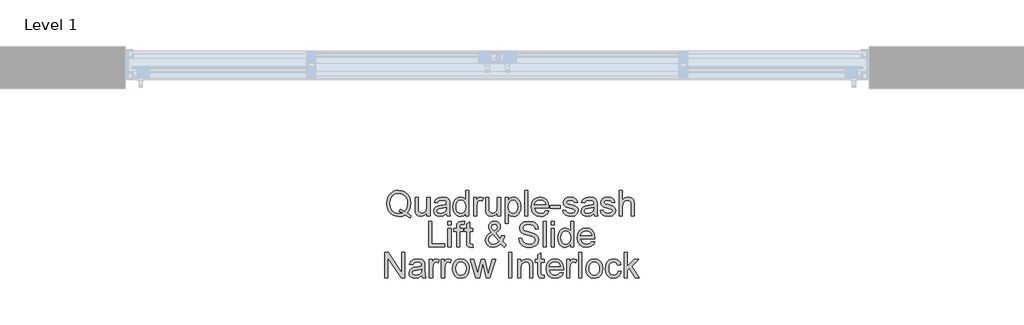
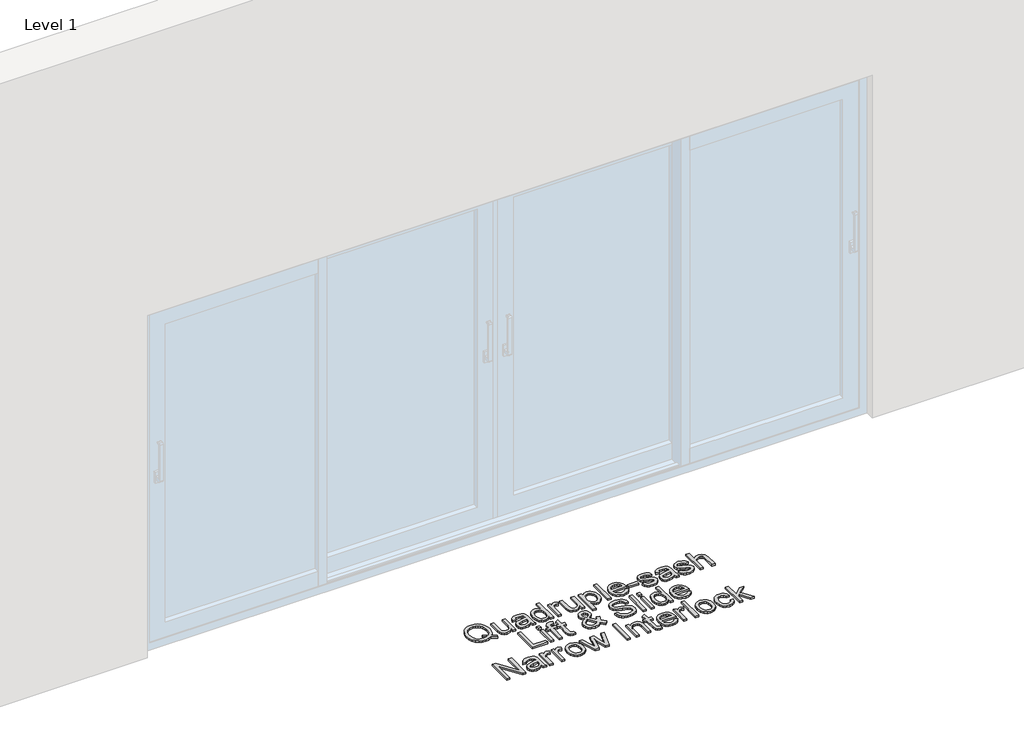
# One storey, part 8 of 13: 1 proxy.
"""IFC4 building model written with IfcOpenShell, lengths in millimetres."""

from ifc_helpers import new_model, si_unit, origin, origin_with_axes, place, context, project, spatial, polyline, outline, extrude, element, save

model = new_model("IFC4")

# Units and contexts
model_context = context("Model", 3, world=origin())
ifc_project = project(units=[si_unit("LENGTHUNIT", "METRE", prefix="MILLI")], contexts=[model_context])

# Site, building, storey
site = spatial("IfcSite", under=ifc_project)
building = spatial("IfcBuilding", under=site)
storey = spatial("IfcBuildingStorey", under=building, Name="Level 1", Elevation=0.0)

# Proxy
placement = place(None, origin())
element("IfcBuildingElementProxy", 1, Name="150mm Arial", ObjectType="150mm Arial", at=placement, inside=storey, context=model_context, shape_type="SweptSolid", body=[
    extrude(outline(polyline([(13997.0276643, -5879.5997474), (14020.388171, -5895.3083086), (14015.3113995, -5909.1038834), (13984.2989473, -5891.4823358), (13966.8705377, -5897.8834825), (13947.6946887, -5900.0171981), (13928.4268692, -5897.5569873), (13911.0168538, -5890.1763547), (13896.4349312, -5878.3397515), (13885.6513903, -5862.5116287), (13878.9881276, -5843.5611074), (13876.7670401, -5822.3573089), (13878.9835291, -5801.1351163), (13885.6329962, -5781.9086836), (13896.3751504, -5765.855233), (13910.869701, -5754.151987), (13928.2153371, -5747.0058793), (13947.5107477, -5744.6238433), (13966.9579097, -5747.0610616), (13984.3909178, -5754.3727162), (13998.8624757, -5766.0713637), (14009.4252875, -5781.6695603), (14015.8816165, -5800.3395715), (14018.0337262, -5821.2536629), (14012.8098019, -5854.1791015), (14006.2523053, -5867.8367206), (13997.0276643, -5879.5997474)]), holes=[polyline([(13952.8818249, -5854.5469835), (13968.7191448, -5860.534263), (13981.5030441, -5868.8575931), (13994.7743871, -5849.4334238), (13999.1981681, -5822.2101561), (13997.6346696, -5805.6324737), (13992.9441741, -5791.2896744), (13985.2416449, -5779.5450417), (13974.6420449, -5770.7618591), (13961.8627441, -5765.2850159), (13947.6211123, -5763.4594015), (13927.093297, -5767.152017), (13910.3914544, -5778.2298636), (13899.2998123, -5796.6377589), (13895.6025982, -5822.3205207), (13899.2584256, -5847.4514595), (13910.2259075, -5865.9697195), (13926.8771663, -5877.3786598), (13947.5843241, -5881.18164), (13967.8546221, -5877.318879), (13948.0257825, -5868.9679577), (13952.8818249, -5854.5469835)])]), origin_with_axes(), (0.0, 0.0, 1.0), 10.0),
    extrude(outline(polyline([(14114.5659618, -5897.6627533), (14114.5659618, -5878.6432542), (14099.8138937, -5894.6737121), (14080.5736654, -5900.0171981), (14062.8601473, -5896.2648018), (14050.6464651, -5886.8470227), (14045.0362647, -5872.9778715), (14043.9326187, -5855.4666885), (14043.9326187, -5787.0038492), (14062.7681768, -5787.0038492), (14062.7681768, -5846.6007324), (14063.908611, -5865.8041726), (14071.3582214, -5877.0797557), (14085.3929195, -5881.18164), (14101.1198748, -5876.9877852), (14111.5125412, -5865.5650493), (14114.5659618, -5844.5773814), (14114.5659618, -5787.0038492), (14133.4015199, -5787.0038492), (14133.4015199, -5897.6627533), (14114.5659618, -5897.6627533)])), origin_with_axes(), (0.0, 0.0, 1.0), 10.0),
    extrude(outline(polyline([(14229.9337554, -5883.5360847), (14211.6684144, -5896.30159), (14191.4900869, -5900.0171981), (14175.7493361, -5897.782315), (14164.1380606, -5891.0776656), (14156.9781573, -5880.8965314), (14154.5915228, -5868.2321937), (14158.1967664, -5853.3329729), (14167.6697278, -5842.5172423), (14180.8582973, -5836.3368247), (14197.1554697, -5833.5041334), (14229.8233908, -5827.0294103), (14229.9337554, -5822.8355555), (14228.6369714, -5814.4294519), (14224.7466193, -5808.9296161), (14216.0462101, -5804.846126), (14203.9244984, -5803.4849626), (14184.868211, -5807.1086002), (14175.7815258, -5819.966076), (14156.9459676, -5817.6116312), (14165.0945538, -5799.2175314), (14181.5020908, -5788.438589), (14206.3525196, -5784.6494044), (14229.1795974, -5787.9971306), (14242.0738613, -5796.4032342), (14247.8496086, -5809.1871335), (14248.7693136, -5825.6682469), (14248.7693136, -5849.10233), (14249.7258068, -5881.8254334), (14253.4782031, -5897.6627533), (14234.642645, -5897.6627533), (14229.9337554, -5883.5360847)]), holes=[polyline([(14229.9337554, -5845.8649684), (14199.5467026, -5851.6407157), (14183.3415008, -5854.6941363), (14176.0022549, -5859.6605432), (14173.427081, -5866.9078185), (14179.0372814, -5877.0981498), (14195.5000007, -5881.18164), (14214.556288, -5876.6750855), (14226.8435467, -5865.7673844), (14229.8233908, -5851.1992574), (14229.9337554, -5845.8649684)])]), origin_with_axes(), (0.0, 0.0, 1.0), 10.0),
    extrude(outline(polyline([(14342.9471044, -5897.6627533), (14342.9471044, -5879.894053), (14330.4851018, -5894.9864118), (14313.2590273, -5900.0171981), (14301.0821333, -5898.1961822), (14289.9353089, -5892.7331346), (14280.4991357, -5884.0097328), (14273.4541955, -5872.4076544), (14269.0672027, -5858.3959489), (14267.6048717, -5842.4436659), (14272.994343, -5812.4612833), (14279.7265835, -5800.5694978), (14289.1443626, -5791.8231033), (14300.5349088, -5786.4428292), (14313.1854509, -5784.6494044), (14330.5494811, -5789.7813583), (14342.9471044, -5803.1170806), (14342.9471044, -5746.9782881), (14361.7826625, -5746.9782881), (14361.7826625, -5897.6627533), (14342.9471044, -5897.6627533)]), holes=[polyline([(14286.4404299, -5842.3700895), (14288.5649484, -5859.4076244), (14294.938504, -5871.5247376), (14304.1999332, -5878.7674144), (14314.9880727, -5881.18164), (14325.7716137, -5878.877779), (14334.7985182, -5871.966196), (14340.9099578, -5860.3181323), (14342.9471044, -5843.8048292), (14340.8731696, -5825.7510203), (14334.6513654, -5813.2338354), (14325.3945347, -5805.9221808), (14314.2155205, -5803.4849626), (14303.3170164, -5805.8256118), (14294.386681, -5812.8475594), (14288.4269927, -5824.9094903), (14286.4404299, -5842.3700895)])]), origin_with_axes(), (0.0, 0.0, 1.0), 10.0),
    extrude(outline(polyline([(14390.0359997, -5897.6627533), (14390.0359997, -5787.0038492), (14406.5171131, -5787.0038492), (14406.5171131, -5803.374598), (14418.2157606, -5788.2914362), (14429.9879844, -5784.6494044), (14448.897119, -5790.4619399), (14442.6063369, -5807.3477235), (14429.362585, -5803.4849626), (14418.7124013, -5807.2005707), (14411.9249785, -5817.5012666), (14408.8715579, -5839.5006099), (14408.8715579, -5897.6627533), (14390.0359997, -5897.6627533)])), origin_with_axes(), (0.0, 0.0, 1.0), 10.0),
    extrude(outline(polyline([(14531.3026859, -5897.6627533), (14531.3026859, -5878.6432542), (14516.5506179, -5894.6737121), (14497.3103895, -5900.0171981), (14479.5968715, -5896.2648018), (14467.3831892, -5886.8470227), (14461.7729888, -5872.9778715), (14460.6693428, -5855.4666885), (14460.6693428, -5787.0038492), (14479.504901, -5787.0038492), (14479.504901, -5846.6007324), (14480.6453352, -5865.8041726), (14488.0949456, -5877.0797557), (14502.1296437, -5881.18164), (14517.856599, -5876.9877852), (14528.2492653, -5865.5650493), (14531.3026859, -5844.5773814), (14531.3026859, -5787.0038492), (14550.138244, -5787.0038492), (14550.138244, -5897.6627533), (14531.3026859, -5897.6627533)])), origin_with_axes(), (0.0, 0.0, 1.0), 10.0),
    extrude(outline(polyline([(14576.0371365, -5940.0427592), (14576.0371365, -5787.0038492), (14594.8726947, -5787.0038492), (14594.8726947, -5805.4715254), (14607.8957173, -5789.8549347), (14625.4804767, -5784.6494044), (14638.2183907, -5786.4704203), (14649.3560181, -5791.9334679), (14658.4243093, -5800.7074535), (14664.9542147, -5812.4612833), (14670.2149273, -5841.4871727), (14668.7296037, -5857.5958055), (14664.273633, -5872.0029842), (14656.9895695, -5883.9775431), (14647.0199675, -5892.7883169), (14635.408692, -5898.2099778), (14623.1996083, -5900.0171981), (14606.8104654, -5895.1795499), (14594.8726947, -5882.9474735), (14594.8726947, -5940.0427592), (14576.0371365, -5940.0427592)]), holes=[polyline([(14594.8726947, -5843.2162181), (14596.9098412, -5860.1020016), (14603.0212808, -5871.9110137), (14612.0389883, -5878.8639834), (14622.7949381, -5881.18164), (14633.7256319, -5878.7812099), (14642.9732655, -5871.5799199), (14649.2778432, -5859.3386465), (14651.3793691, -5841.8182665), (14649.328427, -5825.0244534), (14643.1756006, -5813.0498945), (14634.1716888, -5805.8761955), (14623.5674903, -5803.4849626), (14612.921905, -5806.0279469), (14603.5731038, -5813.6568997), (14597.047797, -5826.1326979), (14594.8726947, -5843.2162181)])]), origin_with_axes(), (0.0, 0.0, 1.0), 10.0),
    extrude(outline(polyline([(14691.4049302, -5897.6627533), (14691.4049302, -5746.9782881), (14710.2404883, -5746.9782881), (14710.2404883, -5897.6627533), (14691.4049302, -5897.6627533)])), origin_with_axes(), (0.0, 0.0, 1.0), 10.0),
    extrude(outline(polyline([(14815.9697738, -5864.7005266), (14834.4374499, -5867.0549713), (14827.7833843, -5880.9701078), (14817.1653902, -5891.3719712), (14802.822591, -5897.8558914), (14784.9941098, -5900.0171981), (14762.8935989, -5896.2877944), (14745.8882537, -5885.0995832), (14735.0449319, -5867.1791315), (14731.4304913, -5843.2530063), (14735.0817201, -5818.5221391), (14746.0354065, -5800.0268718), (14762.8108255, -5788.4937713), (14783.927252, -5784.6494044), (14804.3860894, -5788.4845742), (14820.7338456, -5799.9900836), (14831.4530072, -5818.4485627), (14835.0260611, -5843.1426417), (14834.9156965, -5848.2194132), (14750.2660494, -5848.2194132), (14753.5264036, -5862.3184907), (14761.1001742, -5872.6835659), (14772.030868, -5879.0571214), (14785.3619918, -5881.18164), (14803.8296679, -5877.2453026), (14815.9697738, -5864.7005266)]), holes=[polyline([(14750.2660494, -5829.383855), (14816.190503, -5829.383855), (14813.6429201, -5819.4326471), (14808.6489221, -5812.3141305), (14797.6676445, -5805.6922545), (14783.8536756, -5803.4849626), (14771.1571482, -5805.2461976), (14760.6587158, -5810.5299028), (14753.3608567, -5818.765861), (14750.2660494, -5829.383855)])]), origin_with_axes(), (0.0, 0.0, 1.0), 10.0),
    extrude(outline(polyline([(14844.4438402, -5852.9283027), (14844.4438402, -5834.0927446), (14903.3049594, -5834.0927446), (14903.3049594, -5852.9283027), (14844.4438402, -5852.9283027)])), origin_with_axes(), (0.0, 0.0, 1.0), 10.0),
    extrude(outline(polyline([(14917.431628, -5864.7005266), (14936.2671862, -5862.3460818), (14939.2378333, -5870.4026975), (14944.9859895, -5876.3255976), (14964.9619818, -5881.18164), (14984.165422, -5876.7302678), (14990.4194159, -5866.2824192), (14988.8467203, -5861.4815591), (14984.1286338, -5857.8211333), (14964.7412526, -5852.4500561), (14936.3775508, -5843.2346122), (14923.9983216, -5832.4740638), (14919.7860728, -5817.2805374), (14923.1705872, -5803.2458393), (14932.4044252, -5792.5220791), (14944.3789842, -5786.9486669), (14960.5841861, -5784.6494044), (14983.5032344, -5788.3466185), (14998.0713614, -5798.3530087), (15004.5460845, -5815.2571864), (14985.7105263, -5817.6116312), (14978.6287979, -5807.2189648), (14962.055714, -5803.4849626), (14944.0294963, -5807.0534179), (14938.6216309, -5815.367551), (14940.8657111, -5820.8489927), (14947.8922572, -5825.0060593), (14964.1158532, -5829.015973), (14991.7621852, -5837.8819291), (15004.6012668, -5847.9251076), (15009.254974, -5864.2958564), (15003.7919264, -5882.3220741), (14988.0281829, -5895.4002791), (14964.7044644, -5900.0171981), (14945.7125564, -5897.791512), (14931.8526022, -5891.1144538), (14922.6003701, -5880.0595999), (14917.431628, -5864.7005266)])), origin_with_axes(), (0.0, 0.0, 1.0), 10.0),
    extrude(outline(polyline([(15101.07832, -5883.5360847), (15082.812979, -5896.30159), (15062.6346515, -5900.0171981), (15046.8939007, -5897.782315), (15035.2826252, -5891.0776656), (15028.1227219, -5880.8965314), (15025.7360874, -5868.2321937), (15029.341331, -5853.3329729), (15038.8142923, -5842.5172423), (15052.0028619, -5836.3368247), (15068.3000342, -5833.5041334), (15100.9679554, -5827.0294103), (15101.07832, -5822.8355555), (15099.781536, -5814.4294519), (15095.8911839, -5808.9296161), (15087.1907747, -5804.846126), (15075.069063, -5803.4849626), (15056.0127756, -5807.1086002), (15046.9260903, -5819.966076), (15028.0905322, -5817.6116312), (15036.2391184, -5799.2175314), (15052.6466554, -5788.438589), (15077.4970841, -5784.6494044), (15100.3241619, -5787.9971306), (15113.2184259, -5796.4032342), (15118.9941732, -5809.1871335), (15119.9138782, -5825.6682469), (15119.9138782, -5849.10233), (15120.8703714, -5881.8254334), (15124.6227677, -5897.6627533), (15105.7872096, -5897.6627533), (15101.07832, -5883.5360847)]), holes=[polyline([(15101.07832, -5845.8649684), (15070.6912672, -5851.6407157), (15054.4860653, -5854.6941363), (15047.1468195, -5859.6605432), (15044.5716456, -5866.9078185), (15050.181846, -5877.0981498), (15066.6445653, -5881.18164), (15085.7008526, -5876.6750855), (15097.9881113, -5865.7673844), (15100.9679554, -5851.1992574), (15101.07832, -5845.8649684)])]), origin_with_axes(), (0.0, 0.0, 1.0), 10.0),
    extrude(outline(polyline([(15138.7494363, -5864.7005266), (15157.5849945, -5862.3460818), (15160.5556416, -5870.4026975), (15166.3037978, -5876.3255976), (15186.2797901, -5881.18164), (15205.4832303, -5876.7302678), (15211.7372242, -5866.2824192), (15210.1645286, -5861.4815591), (15205.4464421, -5857.8211333), (15186.0590609, -5852.4500561), (15157.6953591, -5843.2346122), (15145.3161299, -5832.4740638), (15141.1038811, -5817.2805374), (15144.4883955, -5803.2458393), (15153.7222335, -5792.5220791), (15165.6967925, -5786.9486669), (15181.9019944, -5784.6494044), (15204.8210427, -5788.3466185), (15219.3891697, -5798.3530087), (15225.8638928, -5815.2571864), (15207.0283346, -5817.6116312), (15199.9466062, -5807.2189648), (15183.3735223, -5803.4849626), (15165.3473046, -5807.0534179), (15159.9394392, -5815.367551), (15162.1835194, -5820.8489927), (15169.2100655, -5825.0060593), (15185.4336615, -5829.015973), (15213.0799935, -5837.8819291), (15225.9190751, -5847.9251076), (15230.5727823, -5864.2958564), (15225.1097347, -5882.3220741), (15209.3459912, -5895.4002791), (15186.0222727, -5900.0171981), (15167.0303647, -5897.791512), (15153.1704105, -5891.1144538), (15143.9181784, -5880.0595999), (15138.7494363, -5864.7005266)])), origin_with_axes(), (0.0, 0.0, 1.0), 10.0),
    extrude(outline(polyline([(15251.7627852, -5897.6627533), (15251.7627852, -5746.9782881), (15270.5983434, -5746.9782881), (15270.5983434, -5802.3813166), (15285.2860321, -5789.0823825), (15303.3766292, -5784.6494044), (15324.5298439, -5789.4870527), (15337.3689255, -5802.8595632), (15341.2316865, -5827.6180215), (15341.2316865, -5897.6627533), (15322.3961283, -5897.6627533), (15322.3961283, -5829.567796), (15320.8970092, -5817.7771781), (15316.3996518, -5809.7021683), (15309.1523765, -5805.039264), (15299.4035036, -5803.4849626), (15283.9708539, -5807.6788173), (15273.6701581, -5819.046371), (15270.5983434, -5838.8752105), (15270.5983434, -5897.6627533), (15251.7627852, -5897.6627533)])), origin_with_axes(), (0.0, 0.0, 1.0), 10.0),
    extrude(outline(polyline([(14125.1609632, -6080.6249801), (14125.1609632, -5929.9405149), (14143.9965214, -5929.9405149), (14143.9965214, -6061.789422), (14219.338754, -6061.789422), (14219.338754, -6080.6249801), (14125.1609632, -6080.6249801)])), origin_with_axes(), (0.0, 0.0, 1.0), 10.0),
    extrude(outline(polyline([(14238.1743121, -5948.776073), (14238.1743121, -5929.9405149), (14257.0098703, -5929.9405149), (14257.0098703, -5948.776073), (14238.1743121, -5948.776073)])), origin_with_axes(), (0.0, 0.0, 1.0), 10.0),
    extrude(outline(polyline([(14238.1743121, -6080.6249801), (14238.1743121, -5969.966076), (14257.0098703, -5969.966076), (14257.0098703, -6080.6249801), (14238.1743121, -6080.6249801)])), origin_with_axes(), (0.0, 0.0, 1.0), 10.0),
    extrude(outline(polyline([(14386.5043326, -6064.9164189), (14388.8587774, -6081.1768031), (14374.7688969, -6082.9794249), (14358.9867593, -6079.8524279), (14351.1140847, -6071.6486594), (14348.8332163, -6050.2747155), (14348.8332163, -5988.8016341), (14334.7065477, -5988.8016341), (14334.7065477, -5969.966076), (14348.8332163, -5969.966076), (14348.8332163, -5943.0739021), (14367.6687744, -5932.0006541), (14367.6687744, -5969.966076), (14386.5043326, -5969.966076), (14386.5043326, -5988.8016341), (14367.6687744, -5988.8016341), (14367.6687744, -6049.7228925), (14368.6620558, -6059.4349772), (14371.8810233, -6062.8746738), (14378.3005641, -6064.1438667), (14386.5043326, -6064.9164189)])), origin_with_axes(), (0.0, 0.0, 1.0), 10.0),
    extrude(outline(polyline([(14289.9720971, -6080.6249801), (14289.9720971, -5988.8016341), (14273.4909837, -5988.8016341), (14273.4909837, -5969.966076), (14289.9720971, -5969.966076), (14289.9720971, -5958.8192515), (14291.9586598, -5943.1106903), (14301.5971681, -5931.8902895), (14320.5798791, -5927.5860701), (14337.7599682, -5929.6462093), (14335.0008533, -5947.3045451), (14324.1483344, -5946.4216283), (14312.2841401, -5949.5486252), (14308.8076552, -5961.2104845), (14308.8076552, -5969.966076), (14329.9976581, -5969.966076), (14329.9976581, -5988.8016341), (14308.8076552, -5988.8016341), (14308.8076552, -6080.6249801), (14289.9720971, -6080.6249801)])), origin_with_axes(), (0.0, 0.0, 1.0), 10.0),
    extrude(outline(polyline([(14550.6164906, -6062.0101512), (14530.6404983, -6077.7371064), (14507.2799916, -6082.9794249), (14486.4946589, -6079.0982698), (14470.4917921, -6067.4548047), (14462.2420383, -6054.054703), (14459.4921204, -6039.1646793), (14461.7040109, -6025.9669127), (14468.3396824, -6014.1119154), (14479.3715437, -6003.6088844), (14494.7720038, -5994.4670168), (14481.6202224, -5975.4107295), (14478.3276786, -5961.2840609), (14480.9212467, -5948.5645409), (14488.7019508, -5937.6292486), (14500.4097953, -5930.0968647), (14514.7847843, -5927.5860701), (14528.4607975, -5929.9865001), (14539.3960898, -5937.1877902), (14546.5697887, -5947.7552005), (14548.9610217, -5960.2539913), (14547.1905896, -5970.7478252), (14541.8792933, -5980.4507128), (14520.634108, -5997.4836492), (14547.8941639, -6031.4391574), (14556.024356, -6010.5802482), (14574.8599141, -6014.6637384), (14561.5425859, -6045.6761906), (14584.2776932, -6068.4848743), (14570.1510246, -6082.9794249), (14550.6164906, -6062.0101512)]), holes=[polyline([(14511.1059644, -5985.6010608), (14526.5937964, -5973.9208074), (14530.1254635, -5962.8291653), (14525.4717563, -5951.0017591), (14513.8282911, -5946.4216283), (14501.9273086, -5950.9649709), (14497.1632367, -5962.0566131), (14498.7819175, -5968.9544005), (14503.6747481, -5976.6247401), (14511.1059644, -5985.6010608)]), polyline([(14537.9981382, -6048.4353055), (14504.3737238, -6006.4599699), (14483.6803616, -6022.2421075), (14478.3276786, -6036.6630817), (14480.1578915, -6045.5474319), (14485.6485303, -6054.7628758), (14494.4960923, -6061.798619), (14506.3970748, -6064.1438667), (14523.7059227, -6059.766071), (14537.9981382, -6048.4353055)])]), origin_with_axes(), (0.0, 0.0, 1.0), 10.0),
    extrude(outline(polyline([(14657.265481, -6028.8271952), (14676.1010392, -6028.8271952), (14682.1710921, -6047.6811474), (14696.9967365, -6059.6005241), (14719.584691, -6064.1438667), (14739.2663778, -6060.7041701), (14751.9767007, -6051.2496028), (14756.1521613, -6038.6128563), (14753.0251644, -6026.8590265), (14740.222871, -6018.3057701), (14712.7972682, -6011.1136771), (14683.2747381, -6001.8246567), (14667.2534772, -5987.8083527), (14661.9743706, -5969.0831592), (14663.6068469, -5958.0512978), (14668.504276, -5947.7643976), (14676.5378991, -5939.0455943), (14687.5789574, -5932.7180239), (14715.5012009, -5927.5860701), (14745.2996425, -5932.9571472), (14756.7223784, -5939.5882202), (14765.1652702, -5948.7392848), (14770.5087562, -5959.840124), (14772.6332747, -5972.3205207), (14753.7977166, -5972.3205207), (14750.3396258, -5961.0817258), (14743.1291387, -5952.9699278), (14731.8627526, -5948.0587031), (14716.2369649, -5946.4216283), (14700.2432951, -5948.040309), (14689.2712146, -5952.8963514), (14682.9252502, -5960.0424591), (14680.8099287, -5968.5313362), (14682.3090479, -5975.7694144), (14686.8064053, -5981.591147), (14717.56134, -5992.1125721), (14750.8914488, -6001.5671393), (14761.6290045, -6008.4005474), (14769.1200017, -6016.8342421), (14773.52079, -6026.7762531), (14774.9877195, -6038.1346097), (14773.3000608, -6049.7458851), (14768.2370849, -6060.6673819), (14760.0057252, -6070.0667668), (14748.8129155, -6077.1117071), (14735.353033, -6081.5124954), (14720.320455, -6082.9794249), (14701.8665744, -6081.3975323), (14686.6776466, -6076.6518546), (14674.5789274, -6068.7239976), (14665.3956731, -6057.5955672), (14659.5003642, -6044.0391157), (14657.265481, -6028.8271952)])), origin_with_axes(), (0.0, 0.0, 1.0), 10.0),
    extrude(outline(polyline([(14800.886612, -6080.6249801), (14800.886612, -5929.9405149), (14819.7221701, -5929.9405149), (14819.7221701, -6080.6249801), (14800.886612, -6080.6249801)])), origin_with_axes(), (0.0, 0.0, 1.0), 10.0),
    extrude(outline(polyline([(14847.9755073, -5948.776073), (14847.9755073, -5929.9405149), (14866.8110655, -5929.9405149), (14866.8110655, -5948.776073), (14847.9755073, -5948.776073)])), origin_with_axes(), (0.0, 0.0, 1.0), 10.0),
    extrude(outline(polyline([(14847.9755073, -6080.6249801), (14847.9755073, -5969.966076), (14866.8110655, -5969.966076), (14866.8110655, -6080.6249801), (14847.9755073, -6080.6249801)])), origin_with_axes(), (0.0, 0.0, 1.0), 10.0),
    extrude(outline(polyline([(14963.343301, -6080.6249801), (14963.343301, -6062.8562797), (14950.8812984, -6077.9486386), (14933.655224, -6082.9794249), (14921.47833, -6081.158409), (14910.3315055, -6075.6953614), (14900.8953323, -6066.9719596), (14893.8503921, -6055.3698811), (14889.4633993, -6041.3581756), (14888.0010684, -6025.4058926), (14893.3905396, -5995.42351), (14900.1227802, -5983.5317245), (14909.5405592, -5974.7853301), (14920.9311055, -5969.4050559), (14933.5816476, -5967.6116312), (14950.9456778, -5972.743585), (14963.343301, -5986.0793073), (14963.343301, -5929.9405149), (14982.1788592, -5929.9405149), (14982.1788592, -6080.6249801), (14963.343301, -6080.6249801)]), holes=[polyline([(14906.8366266, -6025.3323162), (14908.9611451, -6042.3698511), (14915.3347007, -6054.4869644), (14924.5961299, -6061.7296411), (14935.3842694, -6064.1438667), (14946.1678104, -6061.8400057), (14955.1947148, -6054.9284227), (14961.3061545, -6043.2803591), (14963.343301, -6026.767056), (14961.2693663, -6008.7132471), (14955.047562, -5996.1960622), (14945.7907313, -5988.8844076), (14934.6117172, -5986.4471893), (14923.7132131, -5988.7878385), (14914.7828777, -5995.8097861), (14908.8231893, -6007.871717), (14906.8366266, -6025.3323162)])]), origin_with_axes(), (0.0, 0.0, 1.0), 10.0),
    extrude(outline(polyline([(15087.9081446, -6047.6627533), (15106.3758208, -6050.0171981), (15099.7217552, -6063.9323346), (15089.1037611, -6074.334198), (15074.7609618, -6080.8181182), (15056.9324806, -6082.9794249), (15034.8319697, -6079.2500212), (15017.8266245, -6068.06181), (15006.9833027, -6050.1413583), (15003.3688621, -6026.215233), (15007.0200909, -6001.4843659), (15017.9737773, -5982.9890986), (15034.7491963, -5971.455998), (15055.8656228, -5967.6116312), (15076.3244603, -5971.446801), (15092.6722164, -5982.9523104), (15103.3913781, -6001.4107895), (15106.9644319, -6026.1048684), (15106.8540673, -6031.18164), (15022.2044203, -6031.18164), (15025.4647744, -6045.2807174), (15033.038545, -6055.6457926), (15043.9692388, -6062.0193482), (15057.3003626, -6064.1438667), (15075.7680388, -6060.2075294), (15087.9081446, -6047.6627533)]), holes=[polyline([(15022.2044203, -6012.3460818), (15088.1288738, -6012.3460818), (15085.581291, -6002.3948738), (15080.5872929, -5995.2763572), (15069.6060153, -5988.6544813), (15055.7920464, -5986.4471893), (15043.0955191, -5988.2084244), (15032.5970866, -5993.4921296), (15025.2992275, -6001.7280877), (15022.2044203, -6012.3460818)])]), origin_with_axes(), (0.0, 0.0, 1.0), 10.0),
    extrude(outline(polyline([(13864.9948162, -6263.5872069), (13864.9948162, -6112.9027417), (13885.1547496, -6112.9027417), (13963.8814965, -6232.2804491), (13963.8814965, -6112.9027417), (13982.7170547, -6112.9027417), (13982.7170547, -6263.5872069), (13962.5571213, -6263.5872069), (13883.8303744, -6144.1727112), (13883.8303744, -6263.5872069), (13864.9948162, -6263.5872069)])), origin_with_axes(), (0.0, 0.0, 1.0), 10.0),
    extrude(outline(polyline([(14083.9581798, -6249.4605383), (14065.6928387, -6262.2260435), (14045.5145113, -6265.9416516), (14029.7737604, -6263.7067685), (14018.1624849, -6257.0021192), (14011.0025816, -6246.8209849), (14008.6159471, -6234.1566473), (14012.2211907, -6219.2574265), (14021.6941521, -6208.4416958), (14034.8827216, -6202.2612783), (14051.179894, -6199.4285869), (14083.8478152, -6192.9538638), (14083.9581798, -6188.7600091), (14082.6613957, -6180.3539055), (14078.7710436, -6174.8540696), (14070.0706344, -6170.7705795), (14057.9489227, -6169.4094161), (14038.8926353, -6173.0330538), (14029.8059501, -6185.8905295), (14010.9703919, -6183.5360847), (14019.1189781, -6165.141985), (14035.5265151, -6154.3630425), (14060.3769439, -6150.573858), (14083.2040217, -6153.9215841), (14096.0982856, -6162.3276877), (14101.8740329, -6175.111587), (14102.7937379, -6191.5927004), (14102.7937379, -6215.0267835), (14103.7502311, -6247.749887), (14107.5026274, -6263.5872069), (14088.6670693, -6263.5872069), (14083.9581798, -6249.4605383)]), holes=[polyline([(14083.9581798, -6211.789422), (14053.571127, -6217.5651693), (14037.3659251, -6220.6185898), (14030.0266793, -6225.5849968), (14027.4515053, -6232.8322721), (14033.0617057, -6243.0226033), (14049.524425, -6247.1060935), (14068.5807124, -6242.5995391), (14080.867971, -6231.6918379), (14083.8478152, -6217.1237109), (14083.9581798, -6211.789422)])]), origin_with_axes(), (0.0, 0.0, 1.0), 10.0),
    extrude(outline(polyline([(14128.6926304, -6263.5872069), (14128.6926304, -6152.9283027), (14145.1737438, -6152.9283027), (14145.1737438, -6169.2990515), (14156.8723912, -6154.2158897), (14168.644615, -6150.573858), (14187.5537496, -6156.3863935), (14181.2629675, -6173.2721771), (14168.0192157, -6169.4094161), (14157.3690319, -6173.1250243), (14150.5816091, -6183.4257201), (14147.5281885, -6205.4250634), (14147.5281885, -6263.5872069), (14128.6926304, -6263.5872069)])), origin_with_axes(), (0.0, 0.0, 1.0), 10.0),
    extrude(outline(polyline([(14199.3259734, -6263.5872069), (14199.3259734, -6152.9283027), (14215.8070868, -6152.9283027), (14215.8070868, -6169.2990515), (14227.5057343, -6154.2158897), (14239.2779581, -6150.573858), (14258.1870927, -6156.3863935), (14251.8963106, -6173.2721771), (14238.6525587, -6169.4094161), (14228.002375, -6173.1250243), (14221.2149522, -6183.4257201), (14218.1615316, -6205.4250634), (14218.1615316, -6263.5872069), (14199.3259734, -6263.5872069)])), origin_with_axes(), (0.0, 0.0, 1.0), 10.0),
    extrude(outline(polyline([(14265.250427, -6208.2577548), (14269.3247201, -6181.5771131), (14281.5475994, -6162.8243284), (14296.6491553, -6153.6364756), (14314.7305553, -6150.573858), (14334.5180081, -6154.3032617), (14350.3231384, -6165.4914729), (14360.6836151, -6183.2555747), (14364.1371073, -6206.7126504), (14362.610397, -6225.7413466), (14358.0302662, -6240.2267002), (14350.530072, -6251.0746205), (14340.2431717, -6259.191017), (14328.0248909, -6264.253993), (14314.7305553, -6265.9416516), (14294.7039792, -6262.2260435), (14278.9172431, -6251.079219), (14268.667131, -6232.9426367), (14265.250427, -6208.2577548)]), holes=[polyline([(14284.0859851, -6208.2209666), (14286.265686, -6225.2676986), (14292.8047884, -6237.4124029), (14302.6456318, -6244.6826709), (14314.7305553, -6247.1060935), (14326.7602966, -6244.6688753), (14336.5827458, -6237.3572206), (14343.1218483, -6225.0515679), (14345.3015491, -6207.6323554), (14343.1080527, -6191.0822642), (14336.5275635, -6179.1031067), (14326.6913187, -6171.8328388), (14314.7305553, -6169.4094161), (14302.6456318, -6171.8236417), (14292.8047884, -6179.0663185), (14286.265686, -6191.1834317), (14284.0859851, -6208.2209666)])]), origin_with_axes(), (0.0, 0.0, 1.0), 10.0),
    extrude(outline(polyline([(14403.6844218, -6263.5872069), (14370.0232192, -6152.9283027), (14389.5945413, -6152.9283027), (14408.6876169, -6217.4915929), (14414.3897878, -6240.557794), (14419.0618892, -6218.3377215), (14434.2554156, -6152.9283027), (14456.6962173, -6152.9283027), (14471.8161673, -6218.1537805), (14475.9732338, -6238.2769256), (14481.9329221, -6217.0501345), (14501.0627859, -6152.9283027), (14520.7076844, -6152.9283027), (14486.7889645, -6263.5872069), (14464.017069, -6263.5872069), (14449.5593066, -6198.6928229), (14445.3654518, -6178.4593132), (14426.7138347, -6263.5872069), (14403.6844218, -6263.5872069)])), origin_with_axes(), (0.0, 0.0, 1.0), 10.0),
    extrude(outline(polyline([(14597.2271394, -6263.5872069), (14597.2271394, -6112.9027417), (14616.0626976, -6112.9027417), (14616.0626976, -6263.5872069), (14597.2271394, -6263.5872069)])), origin_with_axes(), (0.0, 0.0, 1.0), 10.0),
    extrude(outline(polyline([(14651.3793691, -6263.5872069), (14651.3793691, -6152.9283027), (14670.2149273, -6152.9283027), (14670.2149273, -6168.3793465), (14684.6175074, -6155.0252301), (14704.2808, -6150.573858), (14722.0678945, -6154.1607074), (14734.2080003, -6163.5784865), (14739.854989, -6177.4292436), (14740.8482703, -6195.6394024), (14740.8482703, -6263.5872069), (14722.0127122, -6263.5872069), (14722.0127122, -6198.1777881), (14719.8422084, -6181.5127338), (14712.1718688, -6172.70196), (14699.2408167, -6169.4094161), (14688.2089554, -6171.2580231), (14678.8049719, -6176.8038442), (14672.3624384, -6187.5184073), (14670.2149273, -6204.8732404), (14670.2149273, -6263.5872069), (14651.3793691, -6263.5872069)])), origin_with_axes(), (0.0, 0.0, 1.0), 10.0),
    extrude(outline(polyline([(14806.7727239, -6247.8786457), (14809.1271686, -6264.1390299), (14795.0372882, -6265.9416516), (14779.2551506, -6262.8146547), (14771.3824759, -6254.6108862), (14769.1016076, -6233.2369423), (14769.1016076, -6171.7638609), (14754.974939, -6171.7638609), (14754.974939, -6152.9283027), (14769.1016076, -6152.9283027), (14769.1016076, -6126.0361289), (14787.9371657, -6114.9628808), (14787.9371657, -6152.9283027), (14806.7727239, -6152.9283027), (14806.7727239, -6171.7638609), (14787.9371657, -6171.7638609), (14787.9371657, -6232.6851193), (14788.9304471, -6242.397204), (14792.1494146, -6245.8369006), (14798.5689554, -6247.1060935), (14806.7727239, -6247.8786457)])), origin_with_axes(), (0.0, 0.0, 1.0), 10.0),
    extrude(outline(polyline([(14903.0842302, -6230.6249801), (14921.5519064, -6232.9794249), (14914.8978408, -6246.8945613), (14904.2798467, -6257.2964248), (14889.9370474, -6263.7803449), (14872.1085662, -6265.9416516), (14850.0080554, -6262.2122479), (14833.0027101, -6251.0240367), (14822.1593883, -6233.1035851), (14818.5449477, -6209.1774598), (14822.1961765, -6184.4465927), (14833.1498629, -6165.9513254), (14849.9252819, -6154.4182248), (14871.0417084, -6150.573858), (14891.5005459, -6154.4090278), (14907.8483021, -6165.9145372), (14918.5674637, -6184.3730163), (14922.1405176, -6209.0670952), (14922.030153, -6214.1438667), (14837.3805059, -6214.1438667), (14840.6408601, -6228.2429442), (14848.2146306, -6238.6080194), (14859.1453244, -6244.981575), (14872.4764482, -6247.1060935), (14890.9441244, -6243.1697561), (14903.0842302, -6230.6249801)]), holes=[polyline([(14837.3805059, -6195.3083086), (14903.3049594, -6195.3083086), (14900.7573766, -6185.3571006), (14895.7633785, -6178.238584), (14884.782101, -6171.6167081), (14870.968132, -6169.4094161), (14858.2716047, -6171.1706512), (14847.7731722, -6176.4543563), (14840.4753132, -6184.6903145), (14837.3805059, -6195.3083086)])]), origin_with_axes(), (0.0, 0.0, 1.0), 10.0),
    extrude(outline(polyline([(14940.9760757, -6263.5872069), (14940.9760757, -6152.9283027), (14957.4571891, -6152.9283027), (14957.4571891, -6169.2990515), (14969.1558365, -6154.2158897), (14980.9280604, -6150.573858), (14999.8371949, -6156.3863935), (14993.5464128, -6173.2721771), (14980.302661, -6169.4094161), (14969.6524772, -6173.1250243), (14962.8650544, -6183.4257201), (14959.8116339, -6205.4250634), (14959.8116339, -6263.5872069), (14940.9760757, -6263.5872069)])), origin_with_axes(), (0.0, 0.0, 1.0), 10.0),
    extrude(outline(polyline([(15011.6094188, -6263.5872069), (15011.6094188, -6112.9027417), (15030.4449769, -6112.9027417), (15030.4449769, -6263.5872069), (15011.6094188, -6263.5872069)])), origin_with_axes(), (0.0, 0.0, 1.0), 10.0),
    extrude(outline(polyline([(15053.9894246, -6208.2577548), (15058.0637177, -6181.5771131), (15070.286597, -6162.8243284), (15085.3881529, -6153.6364756), (15103.469553, -6150.573858), (15123.2570058, -6154.3032617), (15139.062136, -6165.4914729), (15149.4226127, -6183.2555747), (15152.8761049, -6206.7126504), (15151.3493947, -6225.7413466), (15146.7692638, -6240.2267002), (15139.2690696, -6251.0746205), (15128.9821694, -6259.191017), (15116.7638886, -6264.253993), (15103.469553, -6265.9416516), (15083.4429769, -6262.2260435), (15067.6562408, -6251.079219), (15057.4061287, -6232.9426367), (15053.9894246, -6208.2577548)]), holes=[polyline([(15072.8249828, -6208.2209666), (15075.0046836, -6225.2676986), (15081.5437861, -6237.4124029), (15091.3846294, -6244.6826709), (15103.469553, -6247.1060935), (15115.4992942, -6244.6688753), (15125.3217435, -6237.3572206), (15131.860846, -6225.0515679), (15134.0405468, -6207.6323554), (15131.8470504, -6191.0822642), (15125.2665612, -6179.1031067), (15115.4303164, -6171.8328388), (15103.469553, -6169.4094161), (15091.3846294, -6171.8236417), (15081.5437861, -6179.0663185), (15075.0046836, -6191.1834317), (15072.8249828, -6208.2209666)])]), origin_with_axes(), (0.0, 0.0, 1.0), 10.0),
    extrude(outline(polyline([(15244.6994509, -6223.5616458), (15263.5350091, -6225.9160906), (15258.2834936, -6242.6685169), (15248.4150591, -6255.3282561), (15234.8586076, -6263.2883028), (15218.5430411, -6265.9416516), (15198.5072679, -6262.2398391), (15182.8400934, -6251.1344013), (15172.7279371, -6233.1127821), (15169.3572183, -6208.662425), (15170.7965566, -6191.9008016), (15175.1145715, -6177.3740613), (15182.380241, -6165.6432242), (15192.6625427, -6157.2693103), (15204.9635969, -6152.247721), (15218.2855237, -6150.573858), (15234.2010185, -6152.8731204), (15246.925137, -6159.7709078), (15256.053209, -6170.8993382), (15261.1805643, -6185.8905295), (15242.3450062, -6188.2449743), (15233.6078088, -6174.1366998), (15218.4326765, -6169.4094161), (15206.260381, -6171.7362697), (15196.5988801, -6178.7168306), (15190.2943024, -6190.7281777), (15188.1927765, -6208.1473902), (15190.2483171, -6225.8011274), (15196.4149391, -6237.8538613), (15205.901696, -6244.7930354), (15217.9176417, -6247.1060935), (15227.6711131, -6245.6621567), (15235.667948, -6241.3303462), (15241.485082, -6234.0002974), (15244.6994509, -6223.5616458)])), origin_with_axes(), (0.0, 0.0, 1.0), 10.0),
    extrude(outline(polyline([(15280.0161225, -6263.5872069), (15280.0161225, -6112.9027417), (15298.8516806, -6112.9027417), (15298.8516806, -6193.8735688), (15341.0845337, -6152.9283027), (15367.1305789, -6152.9283027), (15324.3826911, -6194.3886036), (15369.4850237, -6263.5872069), (15347.4856804, -6263.5872069), (15310.8814219, -6207.4852026), (15298.8516806, -6219.1470619), (15298.8516806, -6263.5872069), (15280.0161225, -6263.5872069)])), origin_with_axes(), (0.0, 0.0, 1.0), 10.0),
])

save(model, "model.ifc")
